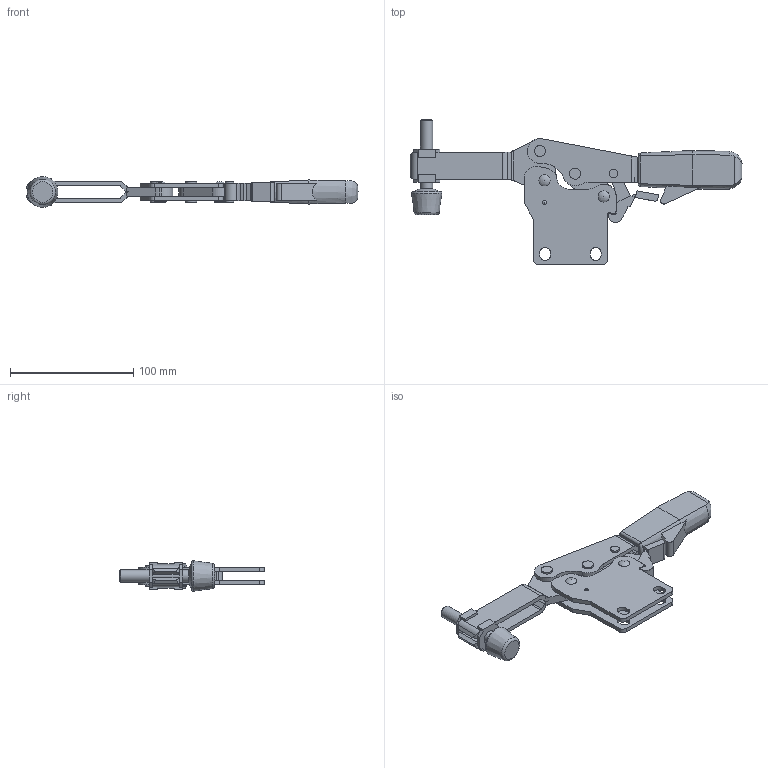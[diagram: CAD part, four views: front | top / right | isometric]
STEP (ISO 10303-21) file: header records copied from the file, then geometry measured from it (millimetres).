
FILE_DESCRIPTION( ( 'STEP AP203' ), '1' );
FILE_NAME( 'C:/Temp/Ganter_Step_05_03_2020/data/2_4/gn_820_4/gn_820_4_st/Toggle clamp GN 820.4-355-NLC (closed).stp', '2020-03-13T05:53:31', ( 'License CC BY-ND 4.0' ), ( 'CADENAS' ), ' ', 'PARTsolutions', ' ' );
FILE_SCHEMA( ( 'CONFIG_CONTROL_DESIGN' ) );
Length unit declared in the file: millimetre
Products named in the file (8): Toggle clamp GN 820.4-355-NLC (closed); _Toggle clamp GN 820.4-355-NLC-1; _Toggle clamp GN 820.4-355-NLC (1)-2; _Toggle clamp GN 820.4-355-NLC (1)-3; _Toggle clamp GN 820.4-355-NLC (1)-4; _Toggle clamp GN 820.4-355-NLC-5; _Toggle clamp GN 820.4-355-NLC-7; _Clamping bolt GN 708.1-M10-77-A-ST PLC
Assembly tree (8 placements, depth 2):
  Toggle clamp GN 820.4-355-NLC (closed)
    _Toggle clamp GN 820.4-355-NLC-1
    _Toggle clamp GN 820.4-355-NLC (1)-2
    _Toggle clamp GN 820.4-355-NLC (1)-3
    _Toggle clamp GN 820.4-355-NLC (1)-4
    _Toggle clamp GN 820.4-355-NLC-5
    _Toggle clamp GN 820.4-355-NLC-7  x2
    _Clamping bolt GN 708.1-M10-77-A-ST PLC
Bounding box: 269 x 117.5 x 24.8 mm (x, y, z)
Volume: 138414.6 mm3; surface area: 63519.2 mm2
Topology: 8 solids, 8 shells, 277 faces, 734 edges, 489 vertices
Faces by surface type: plane 157, cylinder 101, cone 7, torus 6, bspline 4, sphere 2
Full cylindrical faces by diameter (mm): 1.4 x3, 6 x3, 7 x6, 9 x10, 10 x1, 11 x2
Entity records: 8307 total; most frequent: CARTESIAN_POINT 1667, DIRECTION 1358, ORIENTED_EDGE 1260, EDGE_CURVE 630, AXIS2_PLACEMENT_3D 493, VERTEX_POINT 440, LINE 372, VECTOR 372
